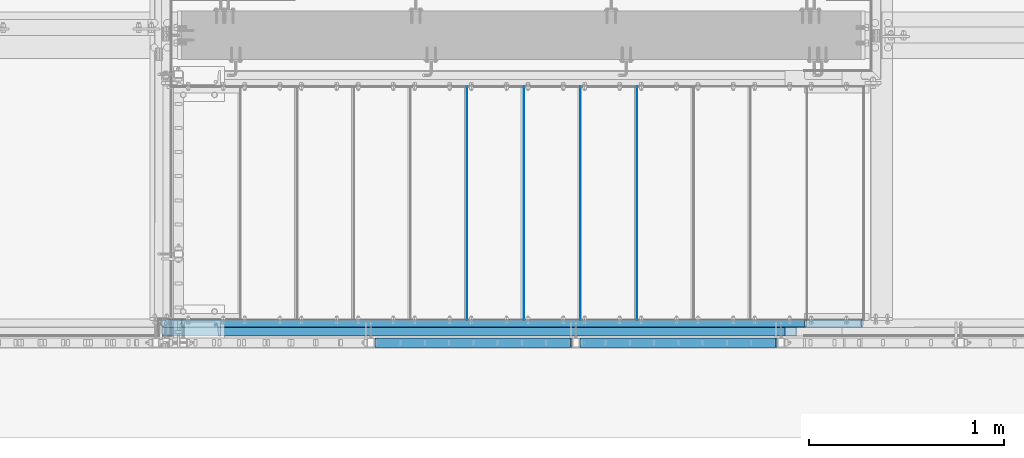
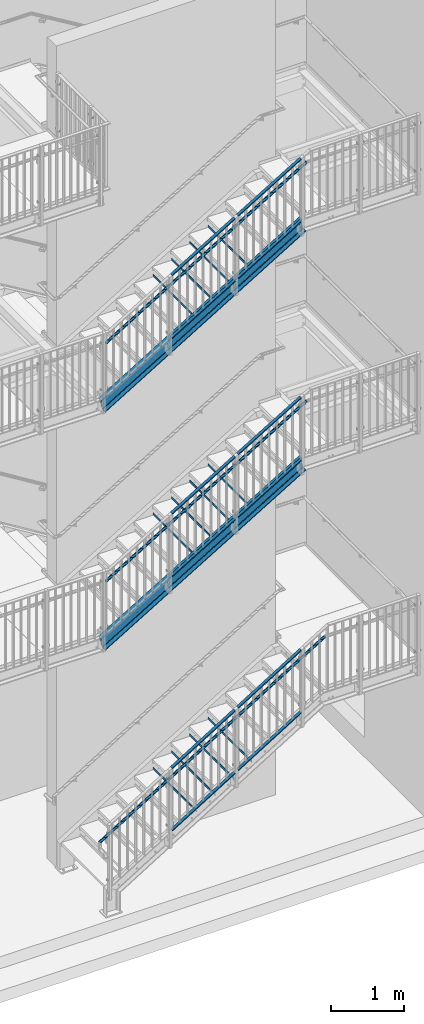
# One storey, part 31 of 410: 17 members, 12 beams, 48 openings.
"""IFC2X3 building model written with IfcOpenShell, lengths in millimetres."""

from ifc_helpers import new_model, entity, si_unit, converted_unit, frame, frame_2d, origin, origin_with_axes, origin_2d, origin_2d_with_axis, place, context, project, spatial, rectangle, circle, hollow_circle, u_section, extrude, clip, halfspace, material, element, save


model = new_model("IFC2X3")

# Units and contexts
model_context = context("Model", 3, precision=1e-09, world=origin_with_axes())
ifc_project = project(units=[si_unit("LENGTHUNIT", "METRE", prefix="MILLI"), si_unit("AREAUNIT", "SQUARE_METRE"), si_unit("VOLUMEUNIT", "CUBIC_METRE"), converted_unit("PLANEANGLEUNIT", "DEGREE", entity("IfcPlaneAngleMeasure", 0.01745329), si_unit("PLANEANGLEUNIT", "RADIAN"), dimensions=[0, 0, 0, 0, 0, 0, 0])], contexts=[model_context])

# Site, building, storey
site_placement = place(None, origin_with_axes())
site = spatial("IfcSite", under=ifc_project, at=site_placement, Name="mKR Teilneubau & Sanierung BA1 - Ostfildern", CompositionType="ELEMENT")
building_placement = place(site_placement, origin_with_axes())
building = spatial("IfcBuilding", under=site, at=building_placement, Name="Struktur 1", CompositionType="ELEMENT")
storey_placement = place(building_placement, origin_with_axes())
storey = spatial("IfcBuildingStorey", under=building, at=storey_placement, Name="Default Storey", CompositionType="ELEMENT", Elevation=0.0)

# Beams
ifc_material = material(Name="S235JR")
for number, where, z_axis, x_axis in (
    (1, (-241.5, 15519.999999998, -3556.0), (0.0, -1.0, 0.0), (1.0, 0.0, 0.0)),
    (2, (48.5, 15519.999999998, -3377.2), (0.0, -1.0, 0.0), (1.0, 0.0, 0.0)),
    (3, (338.5, 15519.999999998, -3198.4), (0.0, -1.0, 0.0), (1.0, 0.0, 0.0)),
    (4, (628.5, 15519.999999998, -3019.6), (0.0, -1.0, 0.0), (1.0, 0.0, 0.0)),
    (5, (-241.5, 15519.999999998, 715.652174), (0.0, -1.0, 0.0), (1.0, 0.0, 0.0)),
    (6, (48.5, 15519.999999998, 889.5652175), (0.0, -1.0, 0.0), (1.0, 0.0, 0.0)),
    (7, (338.5, 15519.999999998, 1063.478261), (0.0, -1.0, 0.0), (1.0, 0.0, 0.0)),
    (8, (628.5, 15519.999999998, 1237.3913045), (0.0, -1.0, 0.0), (1.0, 0.0, 0.0)),
    (9, (-241.5, 15519.999999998, 4720.0), (0.0, -1.0, 0.0), (1.0, 0.0, 0.0)),
    (10, (48.5, 15519.999999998, 4895.0), (0.0, -1.0, 0.0), (1.0, 0.0, 0.0)),
    (11, (338.5, 15519.999999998, 5070.0), (0.0, -1.0, 0.0), (1.0, 0.0, 0.0)),
    (12, (628.5, 15519.999999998, 5245.0), (0.0, -1.0, 0.0), (1.0, 0.0, 0.0)),
):
    element("IfcBeam", number, at=place(None, frame(where, z_axis=z_axis, x_axis=x_axis)), inside=storey, material=ifc_material, Name="-", ObjectType="-", context=model_context, shape_type="SweptSolid", body=[
        extrude(rectangle(XDim=3.0, YDim=40.0, at=origin_2d()), origin(), (0.0, 0.0, -1.0), 1200.0),
    ])

# Members
for number, where, z_axis, x_axis in (
    (13, (339.437602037, 15405.999999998, -2986.643774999), (-0.851214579, 0.0, -0.524817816), (0.524817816, 0.0, -0.851214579)),
    (14, (1340.565334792, 15405.999999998, -1322.262381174), (0.851214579, 0.0, 0.524817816), (-0.524817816, 0.0, 0.851214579)),
):
    element("IfcMember", number, at=place(None, frame(where, z_axis=z_axis, x_axis=x_axis)), inside=storey, material=ifc_material, Name="-", ObjectType="-", context=model_context, shape_type="SweptSolid", body=[
        extrude(rectangle(XDim=15.0, YDim=50.0, at=origin_2d()), origin(), (0.0, 0.0, -1.0), 1176.116759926),
    ])
for number, where, z_axis, x_axis in (
    (15, (339.358768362, 15405.999999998, 2317.256989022), (-0.857606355, 0.0, -0.51430666), (0.51430666, 0.0, -0.857606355)),
    (16, (1340.644168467, 15405.999999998, 1870.199619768), (0.857606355, 0.0, 0.51430666), (-0.51430666, 0.0, 0.857606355)),
):
    element("IfcMember", number, at=place(None, frame(where, z_axis=z_axis, x_axis=x_axis)), inside=storey, material=ifc_material, Name="-", ObjectType="-", context=model_context, shape_type="SweptSolid", body=[
        extrude(rectangle(XDim=15.0, YDim=50.0, at=origin_2d()), origin(), (0.0, 0.0, -1.0), 1167.534958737),
    ])
for number, where, z_axis, x_axis in (
    (17, (1340.626481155, 15405.999999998, 5881.676858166), (0.856187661, 0.0, 0.516664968), (-0.516664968, 0.0, 0.856187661)),
    (18, (339.376455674, 15405.999999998, 6324.915685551), (-0.856187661, 0.0, -0.516664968), (0.516664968, 0.0, -0.856187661)),
):
    element("IfcMember", number, at=place(None, frame(where, z_axis=z_axis, x_axis=x_axis)), inside=storey, material=ifc_material, Name="-", ObjectType="-", context=model_context, shape_type="SweptSolid", body=[
        extrude(rectangle(XDim=15.0, YDim=50.0, at=origin_2d()), origin(), (0.0, 0.0, -1.0), 1169.428235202),
    ])

# Member, openings
member_1_placement = place(None, frame((-2051.193958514, 15498.599999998, -335.876543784), z_axis=(-0.857606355, 0.0, -0.51430666), x_axis=(0.0, -1.0, 0.0)))
member_1 = element("IfcMember", 19, at=member_1_placement, inside=storey, material=ifc_material, Name="-", ObjectType="-", context=model_context, shape_type="Clipping", body=[
    clip(clip(extrude(u_section(Depth=220.0, FlangeWidth=80.0, WebThickness=9.0, FlangeThickness=12.5, FilletRadius=12.5, EdgeRadius=6.0, FlangeSlope=4.574, at=frame_2d((18.6, 0.0))), origin(), (0.0, 0.0, -1.0), 4308.223449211), halfspace(frame((15498.599999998, -1254.967899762, -3694.721814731), z_axis=(0.0, 0.266827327, 0.963744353), x_axis=(1.0, 0.0, 0.0)), True)), halfspace(frame((15498.599999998, -298.446694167, -239.896105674), z_axis=(0.0, -0.266827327, -0.963744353), x_axis=(-1.0, 0.0, 0.0)), True)),
])
opening_1_placement = place(member_1_placement, frame((-21.9, -47.744281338, -3330.944017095), z_axis=(1.0, 0.0, 0.0), x_axis=(0.0, -0.51430666, -0.857606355)))
element("IfcOpeningElement", 20, at=opening_1_placement, cuts=member_1, ObjectType="Opening", context=model_context, shape_type="SweptSolid", body=[
    extrude(circle(Radius=7.001, at=origin_2d_with_axis()), origin(), (0.0, 0.0, 1.0), 10.0),
])
opening_2_placement = place(member_1_placement, frame((-21.9, 44.830917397, -2838.424393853), z_axis=(1.0, 0.0, 0.0), x_axis=(0.0, -0.51430666, -0.857606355)))
element("IfcOpeningElement", 21, at=opening_2_placement, cuts=member_1, ObjectType="Opening", context=model_context, shape_type="SweptSolid", body=[
    extrude(circle(Radius=7.001, at=origin_2d_with_axis()), origin(), (0.0, 0.0, 1.0), 10.0),
])
opening_3_placement = place(member_1_placement, frame((-21.9, 44.830917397, -1823.972955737), z_axis=(1.0, 0.0, 0.0), x_axis=(0.0, -0.51430666, -0.857606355)))
element("IfcOpeningElement", 22, at=opening_3_placement, cuts=member_1, ObjectType="Opening", context=model_context, shape_type="SweptSolid", body=[
    extrude(circle(Radius=7.001, at=origin_2d_with_axis()), origin(), (0.0, 0.0, 1.0), 10.0),
])
opening_4_placement = place(member_1_placement, frame((-21.9, 44.830917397, -3514.725352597), z_axis=(1.0, 0.0, 0.0), x_axis=(0.0, -0.51430666, -0.857606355)))
element("IfcOpeningElement", 23, at=opening_4_placement, cuts=member_1, ObjectType="Opening", context=model_context, shape_type="SweptSolid", body=[
    extrude(circle(Radius=7.001, at=origin_2d_with_axis()), origin(), (0.0, 0.0, 1.0), 10.0),
])
opening_5_placement = place(member_1_placement, frame((-21.9, -47.744281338, -1978.342099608), z_axis=(1.0, 0.0, 0.0), x_axis=(0.0, -0.51430666, -0.857606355)))
element("IfcOpeningElement", 24, at=opening_5_placement, cuts=member_1, ObjectType="Opening", context=model_context, shape_type="SweptSolid", body=[
    extrude(circle(Radius=7.001, at=origin_2d_with_axis()), origin(), (0.0, 0.0, 1.0), 10.0),
])
opening_6_placement = place(member_1_placement, frame((-21.9, 44.830917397, -2162.123435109), z_axis=(1.0, 0.0, 0.0), x_axis=(0.0, -0.51430666, -0.857606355)))
element("IfcOpeningElement", 25, at=opening_6_placement, cuts=member_1, ObjectType="Opening", context=model_context, shape_type="SweptSolid", body=[
    extrude(circle(Radius=7.001, at=origin_2d_with_axis()), origin(), (0.0, 0.0, 1.0), 10.0),
])
opening_7_placement = place(member_1_placement, frame((-21.9, -47.744281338, -963.890661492), z_axis=(1.0, 0.0, 0.0), x_axis=(0.0, -0.51430666, -0.857606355)))
element("IfcOpeningElement", 26, at=opening_7_placement, cuts=member_1, ObjectType="Opening", context=model_context, shape_type="SweptSolid", body=[
    extrude(circle(Radius=7.001, at=origin_2d_with_axis()), origin(), (0.0, 0.0, 1.0), 10.0),
])
opening_8_placement = place(member_1_placement, frame((-21.9, 44.830917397, -809.521517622), z_axis=(1.0, 0.0, 0.0), x_axis=(0.0, -0.51430666, -0.857606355)))
element("IfcOpeningElement", 27, at=opening_8_placement, cuts=member_1, ObjectType="Opening", context=model_context, shape_type="SweptSolid", body=[
    extrude(circle(Radius=7.001, at=origin_2d_with_axis()), origin(), (0.0, 0.0, 1.0), 10.0),
])
opening_9_placement = place(member_1_placement, frame((-21.9, -47.744281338, -2316.49257898), z_axis=(1.0, 0.0, 0.0), x_axis=(0.0, -0.51430666, -0.857606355)))
element("IfcOpeningElement", 28, at=opening_9_placement, cuts=member_1, ObjectType="Opening", context=model_context, shape_type="SweptSolid", body=[
    extrude(circle(Radius=7.001, at=origin_2d_with_axis()), origin(), (0.0, 0.0, 1.0), 10.0),
])
opening_10_placement = place(member_1_placement, frame((-21.9, -47.744281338, -2992.793537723), z_axis=(1.0, 0.0, 0.0), x_axis=(0.0, -0.51430666, -0.857606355)))
element("IfcOpeningElement", 29, at=opening_10_placement, cuts=member_1, ObjectType="Opening", context=model_context, shape_type="SweptSolid", body=[
    extrude(circle(Radius=7.001, at=origin_2d_with_axis()), origin(), (0.0, 0.0, 1.0), 10.0),
])
opening_11_placement = place(member_1_placement, frame((-21.9, 44.830917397, -1147.671996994), z_axis=(1.0, 0.0, 0.0), x_axis=(0.0, -0.51430666, -0.857606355)))
element("IfcOpeningElement", 30, at=opening_11_placement, cuts=member_1, ObjectType="Opening", context=model_context, shape_type="SweptSolid", body=[
    extrude(circle(Radius=7.001, at=origin_2d_with_axis()), origin(), (0.0, 0.0, 1.0), 10.0),
])
opening_12_placement = place(member_1_placement, frame((-21.9, -47.744281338, -1302.041140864), z_axis=(1.0, 0.0, 0.0), x_axis=(0.0, -0.51430666, -0.857606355)))
element("IfcOpeningElement", 31, at=opening_12_placement, cuts=member_1, ObjectType="Opening", context=model_context, shape_type="SweptSolid", body=[
    extrude(circle(Radius=7.001, at=origin_2d_with_axis()), origin(), (0.0, 0.0, 1.0), 10.0),
])
opening_13_placement = place(member_1_placement, frame((-21.9, -47.744281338, -2654.643058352), z_axis=(1.0, 0.0, 0.0), x_axis=(0.0, -0.51430666, -0.857606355)))
element("IfcOpeningElement", 32, at=opening_13_placement, cuts=member_1, ObjectType="Opening", context=model_context, shape_type="SweptSolid", body=[
    extrude(circle(Radius=7.001, at=origin_2d_with_axis()), origin(), (0.0, 0.0, 1.0), 10.0),
])
opening_14_placement = place(member_1_placement, frame((-21.9, -47.744281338, -3669.094496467), z_axis=(1.0, 0.0, 0.0), x_axis=(0.0, -0.51430666, -0.857606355)))
element("IfcOpeningElement", 33, at=opening_14_placement, cuts=member_1, ObjectType="Opening", context=model_context, shape_type="SweptSolid", body=[
    extrude(circle(Radius=7.001, at=origin_2d_with_axis()), origin(), (0.0, 0.0, 1.0), 10.0),
])
opening_15_placement = place(member_1_placement, frame((-21.9, -47.744281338, -4007.244975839), z_axis=(1.0, 0.0, 0.0), x_axis=(0.0, -0.51430666, -0.857606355)))
element("IfcOpeningElement", 34, at=opening_15_placement, cuts=member_1, ObjectType="Opening", context=model_context, shape_type="SweptSolid", body=[
    extrude(circle(Radius=7.001, at=origin_2d_with_axis()), origin(), (0.0, 0.0, 1.0), 10.0),
])
opening_16_placement = place(member_1_placement, frame((-21.9, 44.830917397, -1485.822476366), z_axis=(1.0, 0.0, 0.0), x_axis=(0.0, -0.51430666, -0.857606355)))
element("IfcOpeningElement", 35, at=opening_16_placement, cuts=member_1, ObjectType="Opening", context=model_context, shape_type="SweptSolid", body=[
    extrude(circle(Radius=7.001, at=origin_2d_with_axis()), origin(), (0.0, 0.0, 1.0), 10.0),
])
opening_17_placement = place(member_1_placement, frame((-21.9, -47.744281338, -1640.191620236), z_axis=(1.0, 0.0, 0.0), x_axis=(0.0, -0.51430666, -0.857606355)))
element("IfcOpeningElement", 36, at=opening_17_placement, cuts=member_1, ObjectType="Opening", context=model_context, shape_type="SweptSolid", body=[
    extrude(circle(Radius=7.001, at=origin_2d_with_axis()), origin(), (0.0, 0.0, 1.0), 10.0),
])
opening_18_placement = place(member_1_placement, frame((-21.9, 44.830917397, -3176.574873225), z_axis=(1.0, 0.0, 0.0), x_axis=(0.0, -0.51430666, -0.857606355)))
element("IfcOpeningElement", 37, at=opening_18_placement, cuts=member_1, ObjectType="Opening", context=model_context, shape_type="SweptSolid", body=[
    extrude(circle(Radius=7.001, at=origin_2d_with_axis()), origin(), (0.0, 0.0, 1.0), 10.0),
])
opening_19_placement = place(member_1_placement, frame((-21.9, 44.830917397, -3852.875831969), z_axis=(1.0, 0.0, 0.0), x_axis=(0.0, -0.51430666, -0.857606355)))
element("IfcOpeningElement", 38, at=opening_19_placement, cuts=member_1, ObjectType="Opening", context=model_context, shape_type="SweptSolid", body=[
    extrude(circle(Radius=7.001, at=origin_2d_with_axis()), origin(), (0.0, 0.0, 1.0), 10.0),
])
opening_20_placement = place(member_1_placement, frame((-21.9, 44.830917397, -2500.273914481), z_axis=(1.0, 0.0, 0.0), x_axis=(0.0, -0.51430666, -0.857606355)))
element("IfcOpeningElement", 39, at=opening_20_placement, cuts=member_1, ObjectType="Opening", context=model_context, shape_type="SweptSolid", body=[
    extrude(circle(Radius=7.001, at=origin_2d_with_axis()), origin(), (0.0, 0.0, 1.0), 10.0),
])
opening_21_placement = place(member_1_placement, frame((-21.9, 18.208363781, -292.162141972), z_axis=(1.0, 0.0, 0.0), x_axis=(0.0, -0.51430666, -0.857606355)))
element("IfcOpeningElement", 40, at=opening_21_placement, cuts=member_1, ObjectType="Opening", context=model_context, shape_type="SweptSolid", body=[
    extrude(circle(Radius=7.001, at=frame_2d((30.0, 60.0), x_axis=(1.0, 0.0))), origin(), (0.0, 0.0, 1.0), 10.0),
])
opening_22_placement = place(member_1_placement, frame((-21.9, 18.208363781, -292.162141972), z_axis=(1.0, 0.0, 0.0), x_axis=(0.0, -0.51430666, -0.857606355)))
element("IfcOpeningElement", 41, at=opening_22_placement, cuts=member_1, ObjectType="Opening", context=model_context, shape_type="SweptSolid", body=[
    extrude(circle(Radius=7.001, at=frame_2d((-30.0, 60.0), x_axis=(1.0, 0.0))), origin(), (0.0, 0.0, 1.0), 10.0),
])
opening_23_placement = place(member_1_placement, frame((-21.9, 18.208363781, -292.162141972), z_axis=(1.0, 0.0, 0.0), x_axis=(0.0, -0.51430666, -0.857606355)))
element("IfcOpeningElement", 42, at=opening_23_placement, cuts=member_1, ObjectType="Opening", context=model_context, shape_type="SweptSolid", body=[
    extrude(circle(Radius=7.001, at=frame_2d((30.0, -60.0), x_axis=(1.0, 0.0))), origin(), (0.0, 0.0, 1.0), 10.0),
])
opening_24_placement = place(member_1_placement, frame((-21.9, 18.208363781, -292.162141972), z_axis=(1.0, 0.0, 0.0), x_axis=(0.0, -0.51430666, -0.857606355)))
element("IfcOpeningElement", 43, at=opening_24_placement, cuts=member_1, ObjectType="Opening", context=model_context, shape_type="SweptSolid", body=[
    extrude(circle(Radius=7.001, at=frame_2d((-30.0, -60.0), x_axis=(1.0, 0.0))), origin(), (0.0, 0.0, 1.0), 10.0),
])

member_2_placement = place(None, frame((1644.189532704, 15498.599999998, 5892.586142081), z_axis=(0.856187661, 0.0, 0.516664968), x_axis=(0.0, -1.0, 0.0)))
member_2 = element("IfcMember", 44, at=member_2_placement, inside=storey, material=ifc_material, Name="-", ObjectType="-", context=model_context, shape_type="Clipping", body=[
    clip(clip(extrude(u_section(Depth=220.0, FlangeWidth=80.0, WebThickness=9.0, FlangeThickness=12.5, FilletRadius=12.5, EdgeRadius=6.0, FlangeSlope=4.574, at=frame_2d((18.6, 0.0))), origin(), (0.0, 0.0, -1.0), 4315.610771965), halfspace(frame((15498.599999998, 4975.331939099, -1651.168270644), z_axis=(0.0, -0.268153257, -0.963376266), x_axis=(1.0, 0.0, 0.0)), True)), halfspace(frame((15498.599999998, 4012.832475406, -5109.07569488), z_axis=(0.0, 0.268153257, 0.963376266), x_axis=(-1.0, 0.0, 0.0)), True)),
])
opening_25_placement = place(member_2_placement, frame((-21.9, -44.826404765, -2488.974551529), z_axis=(1.0, 0.0, 0.0), x_axis=(0.0, 0.516664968, 0.856187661)))
element("IfcOpeningElement", 45, at=opening_25_placement, cuts=member_2, ObjectType="Opening", context=model_context, shape_type="SweptSolid", body=[
    extrude(circle(Radius=7.001, at=origin_2d_with_axis()), origin(), (0.0, 0.0, 1.0), 10.0),
])
opening_26_placement = place(member_2_placement, frame((-21.9, 48.173289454, -2673.571563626), z_axis=(1.0, 0.0, 0.0), x_axis=(0.0, 0.516664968, 0.856187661)))
element("IfcOpeningElement", 46, at=opening_26_placement, cuts=member_2, ObjectType="Opening", context=model_context, shape_type="SweptSolid", body=[
    extrude(circle(Radius=7.001, at=origin_2d_with_axis()), origin(), (0.0, 0.0, 1.0), 10.0),
])
opening_27_placement = place(member_2_placement, frame((-21.9, 48.173289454, -302.596026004), z_axis=(1.0, 0.0, 0.0), x_axis=(0.0, 0.516664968, 0.856187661)))
element("IfcOpeningElement", 47, at=opening_27_placement, cuts=member_2, ObjectType="Opening", context=model_context, shape_type="SweptSolid", body=[
    extrude(circle(Radius=7.001, at=origin_2d_with_axis()), origin(), (0.0, 0.0, 1.0), 10.0),
])
opening_28_placement = place(member_2_placement, frame((-21.9, 48.173289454, -641.306817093), z_axis=(1.0, 0.0, 0.0), x_axis=(0.0, 0.516664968, 0.856187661)))
element("IfcOpeningElement", 48, at=opening_28_placement, cuts=member_2, ObjectType="Opening", context=model_context, shape_type="SweptSolid", body=[
    extrude(circle(Radius=7.001, at=origin_2d_with_axis()), origin(), (0.0, 0.0, 1.0), 10.0),
])
opening_29_placement = place(member_2_placement, frame((-21.9, -44.826404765, -1134.131387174), z_axis=(1.0, 0.0, 0.0), x_axis=(0.0, 0.516664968, 0.856187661)))
element("IfcOpeningElement", 49, at=opening_29_placement, cuts=member_2, ObjectType="Opening", context=model_context, shape_type="SweptSolid", body=[
    extrude(circle(Radius=7.001, at=origin_2d_with_axis()), origin(), (0.0, 0.0, 1.0), 10.0),
])
opening_30_placement = place(member_2_placement, frame((-21.9, 48.173289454, -1657.43919036), z_axis=(1.0, 0.0, 0.0), x_axis=(0.0, 0.516664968, 0.856187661)))
element("IfcOpeningElement", 50, at=opening_30_placement, cuts=member_2, ObjectType="Opening", context=model_context, shape_type="SweptSolid", body=[
    extrude(circle(Radius=7.001, at=origin_2d_with_axis()), origin(), (0.0, 0.0, 1.0), 10.0),
])
opening_31_placement = place(member_2_placement, frame((-21.9, -44.826404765, -795.420596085), z_axis=(1.0, 0.0, 0.0), x_axis=(0.0, 0.516664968, 0.856187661)))
element("IfcOpeningElement", 51, at=opening_31_placement, cuts=member_2, ObjectType="Opening", context=model_context, shape_type="SweptSolid", body=[
    extrude(circle(Radius=7.001, at=origin_2d_with_axis()), origin(), (0.0, 0.0, 1.0), 10.0),
])
opening_32_placement = place(member_2_placement, frame((-21.9, -44.826404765, -456.709804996), z_axis=(1.0, 0.0, 0.0), x_axis=(0.0, 0.516664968, 0.856187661)))
element("IfcOpeningElement", 52, at=opening_32_placement, cuts=member_2, ObjectType="Opening", context=model_context, shape_type="SweptSolid", body=[
    extrude(circle(Radius=7.001, at=origin_2d_with_axis()), origin(), (0.0, 0.0, 1.0), 10.0),
])
opening_33_placement = place(member_2_placement, frame((-21.9, -44.826404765, -1811.552969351), z_axis=(1.0, 0.0, 0.0), x_axis=(0.0, 0.516664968, 0.856187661)))
element("IfcOpeningElement", 53, at=opening_33_placement, cuts=member_2, ObjectType="Opening", context=model_context, shape_type="SweptSolid", body=[
    extrude(circle(Radius=7.001, at=origin_2d_with_axis()), origin(), (0.0, 0.0, 1.0), 10.0),
])
opening_34_placement = place(member_2_placement, frame((-21.9, 48.173289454, -3350.993145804), z_axis=(1.0, 0.0, 0.0), x_axis=(0.0, 0.516664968, 0.856187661)))
element("IfcOpeningElement", 54, at=opening_34_placement, cuts=member_2, ObjectType="Opening", context=model_context, shape_type="SweptSolid", body=[
    extrude(circle(Radius=7.001, at=origin_2d_with_axis()), origin(), (0.0, 0.0, 1.0), 10.0),
])
opening_35_placement = place(member_2_placement, frame((-21.9, -44.826404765, -3505.106924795), z_axis=(1.0, 0.0, 0.0), x_axis=(0.0, 0.516664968, 0.856187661)))
element("IfcOpeningElement", 55, at=opening_35_placement, cuts=member_2, ObjectType="Opening", context=model_context, shape_type="SweptSolid", body=[
    extrude(circle(Radius=7.001, at=origin_2d_with_axis()), origin(), (0.0, 0.0, 1.0), 10.0),
])
opening_36_placement = place(member_2_placement, frame((-21.9, -44.826404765, -3166.396133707), z_axis=(1.0, 0.0, 0.0), x_axis=(0.0, 0.516664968, 0.856187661)))
element("IfcOpeningElement", 56, at=opening_36_placement, cuts=member_2, ObjectType="Opening", context=model_context, shape_type="SweptSolid", body=[
    extrude(circle(Radius=7.001, at=origin_2d_with_axis()), origin(), (0.0, 0.0, 1.0), 10.0),
])
opening_37_placement = place(member_2_placement, frame((-21.9, 48.173289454, -3012.282354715), z_axis=(1.0, 0.0, 0.0), x_axis=(0.0, 0.516664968, 0.856187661)))
element("IfcOpeningElement", 57, at=opening_37_placement, cuts=member_2, ObjectType="Opening", context=model_context, shape_type="SweptSolid", body=[
    extrude(circle(Radius=7.001, at=origin_2d_with_axis()), origin(), (0.0, 0.0, 1.0), 10.0),
])
opening_38_placement = place(member_2_placement, frame((-21.9, -44.826404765, -2150.26376044), z_axis=(1.0, 0.0, 0.0), x_axis=(0.0, 0.516664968, 0.856187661)))
element("IfcOpeningElement", 58, at=opening_38_placement, cuts=member_2, ObjectType="Opening", context=model_context, shape_type="SweptSolid", body=[
    extrude(circle(Radius=7.001, at=origin_2d_with_axis()), origin(), (0.0, 0.0, 1.0), 10.0),
])
opening_39_placement = place(member_2_placement, frame((-21.9, 48.173289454, -1318.728399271), z_axis=(1.0, 0.0, 0.0), x_axis=(0.0, 0.516664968, 0.856187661)))
element("IfcOpeningElement", 59, at=opening_39_placement, cuts=member_2, ObjectType="Opening", context=model_context, shape_type="SweptSolid", body=[
    extrude(circle(Radius=7.001, at=origin_2d_with_axis()), origin(), (0.0, 0.0, 1.0), 10.0),
])
opening_40_placement = place(member_2_placement, frame((-21.9, -44.826404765, -2827.685342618), z_axis=(1.0, 0.0, 0.0), x_axis=(0.0, 0.516664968, 0.856187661)))
element("IfcOpeningElement", 60, at=opening_40_placement, cuts=member_2, ObjectType="Opening", context=model_context, shape_type="SweptSolid", body=[
    extrude(circle(Radius=7.001, at=origin_2d_with_axis()), origin(), (0.0, 0.0, 1.0), 10.0),
])
opening_41_placement = place(member_2_placement, frame((-21.9, 48.173289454, -1996.149981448), z_axis=(1.0, 0.0, 0.0), x_axis=(0.0, 0.516664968, 0.856187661)))
element("IfcOpeningElement", 61, at=opening_41_placement, cuts=member_2, ObjectType="Opening", context=model_context, shape_type="SweptSolid", body=[
    extrude(circle(Radius=7.001, at=origin_2d_with_axis()), origin(), (0.0, 0.0, 1.0), 10.0),
])
opening_42_placement = place(member_2_placement, frame((-21.9, 48.173289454, -2334.860772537), z_axis=(1.0, 0.0, 0.0), x_axis=(0.0, 0.516664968, 0.856187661)))
element("IfcOpeningElement", 62, at=opening_42_placement, cuts=member_2, ObjectType="Opening", context=model_context, shape_type="SweptSolid", body=[
    extrude(circle(Radius=7.001, at=origin_2d_with_axis()), origin(), (0.0, 0.0, 1.0), 10.0),
])
opening_43_placement = place(member_2_placement, frame((-21.9, -44.826404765, -1472.842178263), z_axis=(1.0, 0.0, 0.0), x_axis=(0.0, 0.516664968, 0.856187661)))
element("IfcOpeningElement", 63, at=opening_43_placement, cuts=member_2, ObjectType="Opening", context=model_context, shape_type="SweptSolid", body=[
    extrude(circle(Radius=7.001, at=origin_2d_with_axis()), origin(), (0.0, 0.0, 1.0), 10.0),
])
opening_44_placement = place(member_2_placement, frame((-21.9, 48.173289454, -980.017608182), z_axis=(1.0, 0.0, 0.0), x_axis=(0.0, 0.516664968, 0.856187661)))
element("IfcOpeningElement", 64, at=opening_44_placement, cuts=member_2, ObjectType="Opening", context=model_context, shape_type="SweptSolid", body=[
    extrude(circle(Radius=7.001, at=origin_2d_with_axis()), origin(), (0.0, 0.0, 1.0), 10.0),
])
opening_45_placement = place(member_2_placement, frame((-21.9, -18.697160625, -4023.099202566), z_axis=(1.0, 0.0, 0.0), x_axis=(0.0, 0.516664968, 0.856187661)))
element("IfcOpeningElement", 65, at=opening_45_placement, cuts=member_2, ObjectType="Opening", context=model_context, shape_type="SweptSolid", body=[
    extrude(circle(Radius=7.001, at=frame_2d((30.0, 60.0), x_axis=(1.0, 0.0))), origin(), (0.0, 0.0, 1.0), 10.0),
])
opening_46_placement = place(member_2_placement, frame((-21.9, -18.697160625, -4023.099202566), z_axis=(1.0, 0.0, 0.0), x_axis=(0.0, 0.516664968, 0.856187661)))
element("IfcOpeningElement", 66, at=opening_46_placement, cuts=member_2, ObjectType="Opening", context=model_context, shape_type="SweptSolid", body=[
    extrude(circle(Radius=7.001, at=frame_2d((-30.0, 60.0), x_axis=(1.0, 0.0))), origin(), (0.0, 0.0, 1.0), 10.0),
])
opening_47_placement = place(member_2_placement, frame((-21.9, -18.697160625, -4023.099202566), z_axis=(1.0, 0.0, 0.0), x_axis=(0.0, 0.516664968, 0.856187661)))
element("IfcOpeningElement", 67, at=opening_47_placement, cuts=member_2, ObjectType="Opening", context=model_context, shape_type="SweptSolid", body=[
    extrude(circle(Radius=7.001, at=frame_2d((30.0, -60.0), x_axis=(1.0, 0.0))), origin(), (0.0, 0.0, 1.0), 10.0),
])
opening_48_placement = place(member_2_placement, frame((-21.9, -18.697160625, -4023.099202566), z_axis=(1.0, 0.0, 0.0), x_axis=(0.0, 0.516664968, 0.856187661)))
element("IfcOpeningElement", 68, at=opening_48_placement, cuts=member_2, ObjectType="Opening", context=model_context, shape_type="SweptSolid", body=[
    extrude(circle(Radius=7.001, at=frame_2d((-30.0, -60.0), x_axis=(1.0, 0.0))), origin(), (0.0, 0.0, 1.0), 10.0),
])

# Members
for number, where, z_axis, x_axis in (
    (69, (-710.623544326, 15405.999999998, 5691.294995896), (-0.856187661, 0.0, -0.516664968), (0.516664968, 0.0, -0.856187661)),
    (70, (290.626481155, 15405.999999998, 5248.05616851), (0.856187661, 0.0, 0.516664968), (-0.516664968, 0.0, 0.856187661)),
):
    element("IfcMember", number, at=place(None, frame(where, z_axis=z_axis, x_axis=x_axis)), inside=storey, material=ifc_material, Name="-", ObjectType="-", context=model_context, shape_type="SweptSolid", body=[
        extrude(rectangle(XDim=15.0, YDim=50.0, at=origin_2d()), origin(), (0.0, 0.0, -1.0), 1169.428235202),
    ])
for number, where, z_axis, x_axis in (
    (71, (-710.641231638, 15405.999999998, 1687.571831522), (-0.857606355, 0.0, -0.51430666), (0.51430666, 0.0, -0.857606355)),
    (72, (290.644168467, 15405.999999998, 1240.514462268), (0.857606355, 0.0, 0.51430666), (-0.51430666, 0.0, 0.857606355)),
):
    element("IfcMember", number, at=place(None, frame(where, z_axis=z_axis, x_axis=x_axis)), inside=storey, material=ifc_material, Name="-", ObjectType="-", context=model_context, shape_type="SweptSolid", body=[
        extrude(rectangle(XDim=15.0, YDim=50.0, at=origin_2d()), origin(), (0.0, 0.0, -1.0), 1167.534958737),
    ])
for number, where, z_axis, x_axis in (
    (73, (-710.562397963, 15405.999999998, -3634.023085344), (-0.851214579, 0.0, -0.524817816), (0.524817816, 0.0, -0.851214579)),
    (74, (290.565334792, 15405.999999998, -1969.641691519), (0.851214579, 0.0, 0.524817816), (-0.524817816, 0.0, 0.851214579)),
):
    element("IfcMember", number, at=place(None, frame(where, z_axis=z_axis, x_axis=x_axis)), inside=storey, material=ifc_material, Name="-", ObjectType="-", context=model_context, shape_type="SweptSolid", body=[
        extrude(rectangle(XDim=15.0, YDim=50.0, at=origin_2d()), origin(), (0.0, 0.0, -1.0), 1176.116759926),
    ])
member_3_placement = place(None, frame((-1725.744535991, 15505.999999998, 4812.720818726), z_axis=(-0.856187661, 0.0, -0.516664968), x_axis=(0.0, -1.0, 0.0)))
element("IfcMember", 75, at=member_3_placement, inside=storey, Name="-", ObjectType="-", context=model_context, shape_type="Clipping", body=[
    clip(clip(extrude(hollow_circle(Radius=21.2, WallThickness=3.2, at=origin_2d()), origin(), (0.0, 0.0, -1.0), 3788.060898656), halfspace(frame((15505.999999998, -5883.011695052, -2119.417884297), z_axis=(0.0, 0.268153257, 0.963376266), x_axis=(1.0, 0.0, 0.0)), True)), halfspace(frame((15505.999999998, -4920.512231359, 1338.489539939), z_axis=(0.0, -0.268153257, -0.963376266), x_axis=(-1.0, 0.0, 0.0)), True)),
])
member_4_placement = place(None, frame((-1725.809914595, 15505.999999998, 812.800325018), z_axis=(-0.857606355, 0.0, -0.51430666), x_axis=(0.0, -1.0, 0.0)))
element("IfcMember", 76, at=member_4_placement, inside=storey, Name="-", ObjectType="-", context=model_context, shape_type="Clipping", body=[
    clip(clip(extrude(hollow_circle(Radius=21.2, WallThickness=3.2, at=origin_2d()), origin(), (0.0, 0.0, -1.0), 3781.87369738), halfspace(frame((15505.999999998, -1206.729394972, 302.991193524), z_axis=(0.0, -0.266827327, -0.963744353), x_axis=(-1.0, 0.0, 0.0)), True)), halfspace(frame((15505.999999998, -2163.250600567, -3151.834515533), z_axis=(0.0, 0.266827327, 0.963744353), x_axis=(1.0, 0.0, 0.0)), True)),
])
member_5_placement = place(None, frame((1807.536473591, 15505.999999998, -1300.445169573), z_axis=(0.851214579, 0.0, 0.524817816), x_axis=(0.0, 1.0, 0.0)))
element("IfcMember", 77, at=member_5_placement, inside=storey, Name="-", ObjectType="-", context=model_context, shape_type="Clipping", body=[
    clip(clip(extrude(hollow_circle(Radius=21.2, WallThickness=3.2, at=origin_2d()), origin(), (0.0, 0.0, -1.0), 4260.69158249), halfspace(frame((-15505.999999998, 132.793837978, -4300.48472637), z_axis=(0.0, 0.487433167, 0.873160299), x_axis=(1.0, 0.0, 0.0)), True)), halfspace(frame((-15505.999999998, 1686.192889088, 446.870391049), z_axis=(0.0, 0.272750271, -0.962084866), x_axis=(-1.0, 0.0, 0.0)), True)),
])

save(model, "model.ifc")
